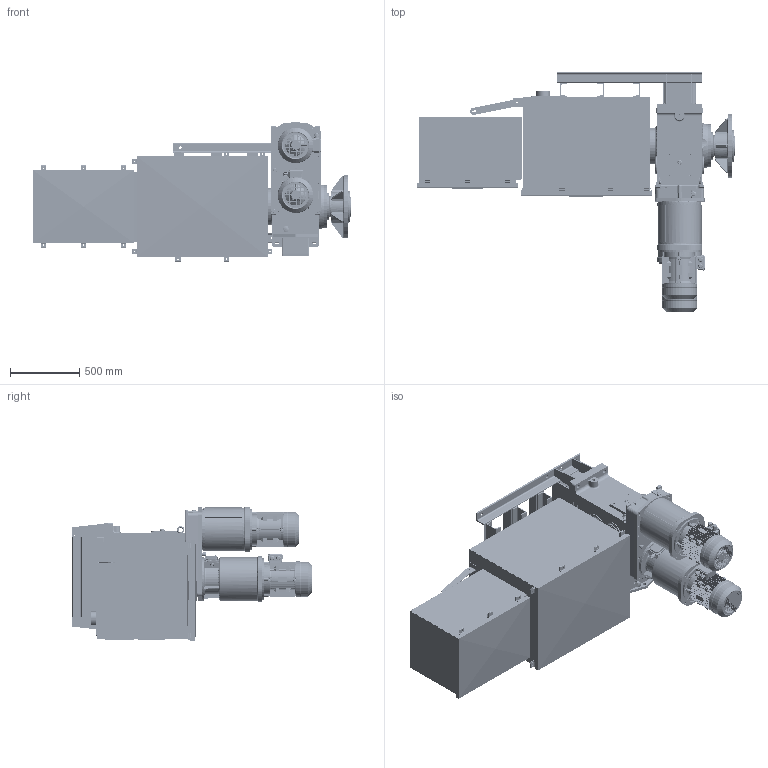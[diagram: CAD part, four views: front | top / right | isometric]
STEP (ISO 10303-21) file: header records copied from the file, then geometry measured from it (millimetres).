
FILE_DESCRIPTION(/* description */ (''),/* implementation_level */ '2;1');
FILE_NAME(/* name */ 'K:\NEMANJA\CABLE REEL\CABLE REEL DA\0700-6\07006002 DAPR-MCGBSR\STEP\75951.stp',/* time_stamp */ '2017-03-16T14:14:30+01:00',/* author */ ('vlakrc01'),/* organization */ ('Hillmar Industries Ltd.'),/* preprocessor_version */ 'ST-DEVELOPER v16.1',/* originating_system */ 'Autodesk Inventor 2016',/* authorisation */ '');
FILE_SCHEMA (('AUTOMOTIVE_DESIGN { 1 0 10303 214 3 1 1 }'));
Products named in the file (1): 75951
Bounding box: 2299.67 x 1729.71 x 1004.55 mm (x, y, z)
Volume: 126100395.9 mm3; surface area: 25263342.9 mm2
Topology: 22 solids, 22 shells, 10802 faces, 29580 edges, 19116 vertices
Faces by surface type: plane 6543, cylinder 2330, bspline 969, cone 563, torus 350, sphere 47
Full cylindrical faces by diameter (mm): 3 x8, 5 x8, 7 x4, 8 x4, 8.376 x24, 8.731 x1, 10 x45, 10.106 x94, 10.5 x4, 11 x42, 12 x10, 12.5 x6, 13 x46, 13.5 x12, 14 x28, 14.3 x4, 15 x16, 17 x4, 18 x3, 18.256 x3, 18.38 x4, 20 x24, 20.5 x4, 21.336 x1, 22 x24, 22.225 x1, 22.3 x4, 23.812 x2, 24.917 x1, 24.918 x1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
Entity records: 375198 total; most frequent: CARTESIAN_POINT 100713, ORIENTED_EDGE 56438, DIRECTION 50299, EDGE_CURVE 28197, VERTEX_POINT 18658, LINE 17571, VECTOR 17571, AXIS2_PLACEMENT_3D 16364
